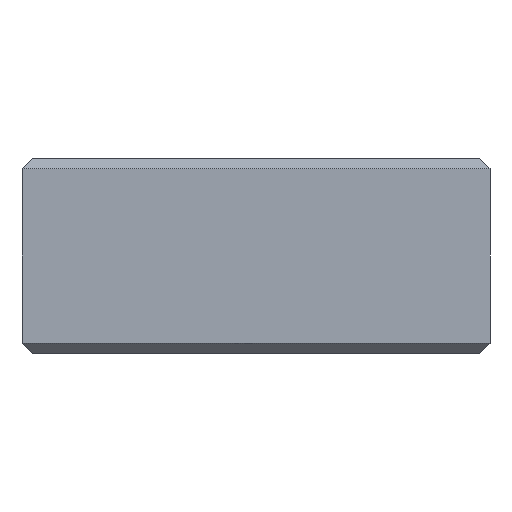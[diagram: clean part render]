
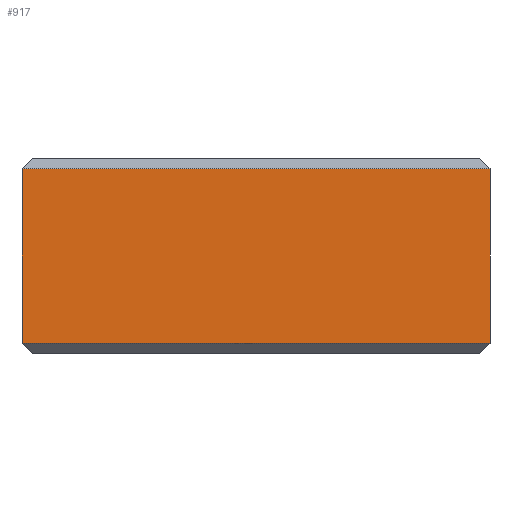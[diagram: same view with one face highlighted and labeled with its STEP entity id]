
A CAD part, front view. The second image highlights one B-rep face of the part: STEP entity #917.
In plain terms, the highlighted planar face has unit normal (0, -1, 0).
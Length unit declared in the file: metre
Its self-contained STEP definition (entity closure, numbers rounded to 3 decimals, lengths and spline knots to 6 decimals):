
#47=PLANE('',#1004);
#153=ORIENTED_EDGE('',*,*,#427,.F.);
#154=ORIENTED_EDGE('',*,*,#428,.T.);
#155=ORIENTED_EDGE('',*,*,#424,.T.);
#156=ORIENTED_EDGE('',*,*,#429,.T.);
#424=EDGE_CURVE('',#559,#560,#632,.T.);
#427=EDGE_CURVE('',#561,#562,#635,.T.);
#428=EDGE_CURVE('',#561,#559,#636,.T.);
#429=EDGE_CURVE('',#560,#562,#637,.T.);
#559=VERTEX_POINT('',#1491);
#560=VERTEX_POINT('',#1492);
#561=VERTEX_POINT('',#1497);
#562=VERTEX_POINT('',#1498);
#632=LINE('',#1490,#704);
#635=LINE('',#1496,#707);
#636=LINE('',#1499,#708);
#637=LINE('',#1500,#709);
#704=VECTOR('',#1162,1.);
#707=VECTOR('',#1167,1.);
#708=VECTOR('',#1168,1.);
#709=VECTOR('',#1169,1.);
#776=EDGE_LOOP('',(#153,#154,#155,#156));
#838=FACE_BOUND('',#776,.T.);
#917=ADVANCED_FACE('',(#838),#47,.F.);
#1004=AXIS2_PLACEMENT_3D('',#1495,#1165,#1166);
#1162=DIRECTION('',(0.,0.,-1.));
#1165=DIRECTION('',(0.,1.,0.));
#1166=DIRECTION('',(0.,0.,1.));
#1167=DIRECTION('',(0.,0.,-1.));
#1168=DIRECTION('',(-1.,0.,0.));
#1169=DIRECTION('',(1.,0.,0.));
#1490=CARTESIAN_POINT('',(-0.01143,0.,0.009525));
#1491=CARTESIAN_POINT('',(-0.01143,0.,0.009017));
#1492=CARTESIAN_POINT('',(-0.01143,0.,0.000508));
#1495=CARTESIAN_POINT('',(0.,0.,0.009525));
#1496=CARTESIAN_POINT('',(0.01143,0.,0.009525));
#1497=CARTESIAN_POINT('',(0.01143,0.,0.009017));
#1498=CARTESIAN_POINT('',(0.01143,0.,0.000508));
#1499=CARTESIAN_POINT('',(-0.01143,0.,0.009017));
#1500=CARTESIAN_POINT('',(0.,0.,0.000508));
